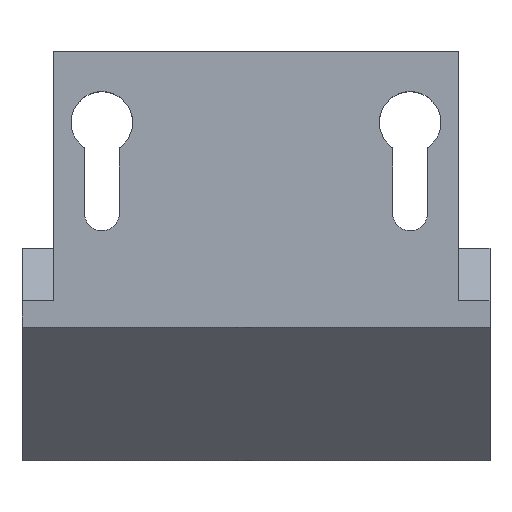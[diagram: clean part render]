
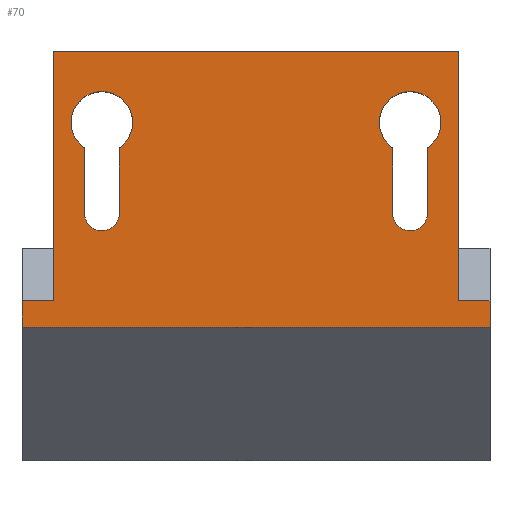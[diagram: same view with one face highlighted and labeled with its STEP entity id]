
A CAD part, top view. The second image highlights one B-rep face of the part: STEP entity #70.
In plain terms, the highlighted planar face has unit normal (0, 0, 1).
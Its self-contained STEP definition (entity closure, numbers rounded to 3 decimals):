
#70 = ADVANCED_FACE( '', ( #142, #143, #144 ), #145, .F. );
#142 = FACE_BOUND( '', #213, .T. );
#143 = FACE_BOUND( '', #214, .T. );
#144 = FACE_OUTER_BOUND( '', #215, .T. );
#145 = PLANE( '', #216 );
#213 = EDGE_LOOP( '', ( #355, #356, #357, #358 ) );
#214 = EDGE_LOOP( '', ( #359, #360, #361, #362 ) );
#215 = EDGE_LOOP( '', ( #363, #364, #365, #366, #367, #368, #369, #370 ) );
#216 = AXIS2_PLACEMENT_3D( '', #371, #372, #373 );
#355 = ORIENTED_EDGE( '', *, *, #458, .F. );
#356 = ORIENTED_EDGE( '', *, *, #469, .F. );
#357 = ORIENTED_EDGE( '', *, *, #466, .F. );
#358 = ORIENTED_EDGE( '', *, *, #485, .F. );
#359 = ORIENTED_EDGE( '', *, *, #451, .F. );
#360 = ORIENTED_EDGE( '', *, *, #480, .F. );
#361 = ORIENTED_EDGE( '', *, *, #486, .F. );
#362 = ORIENTED_EDGE( '', *, *, #454, .F. );
#363 = ORIENTED_EDGE( '', *, *, #474, .F. );
#364 = ORIENTED_EDGE( '', *, *, #487, .F. );
#365 = ORIENTED_EDGE( '', *, *, #426, .T. );
#366 = ORIENTED_EDGE( '', *, *, #488, .F. );
#367 = ORIENTED_EDGE( '', *, *, #489, .T. );
#368 = ORIENTED_EDGE( '', *, *, #462, .T. );
#369 = ORIENTED_EDGE( '', *, *, #476, .T. );
#370 = ORIENTED_EDGE( '', *, *, #483, .T. );
#371 = CARTESIAN_POINT( '', ( 43.95, 8.8, 0. ) );
#372 = DIRECTION( '', ( 0., 0., -1. ) );
#373 = DIRECTION( '', ( -1., 0., 0. ) );
#426 = EDGE_CURVE( '', #502, #499, #503, .T. );
#451 = EDGE_CURVE( '', #544, #546, #547, .T. );
#454 = EDGE_CURVE( '', #546, #550, #551, .T. );
#458 = EDGE_CURVE( '', #554, #556, #557, .T. );
#462 = EDGE_CURVE( '', #562, #560, #563, .T. );
#466 = EDGE_CURVE( '', #566, #568, #569, .T. );
#469 = EDGE_CURVE( '', #568, #554, #572, .T. );
#474 = EDGE_CURVE( '', #579, #574, #581, .T. );
#476 = EDGE_CURVE( '', #560, #583, #584, .T. );
#480 = EDGE_CURVE( '', #587, #544, #589, .T. );
#483 = EDGE_CURVE( '', #583, #574, #592, .T. );
#485 = EDGE_CURVE( '', #556, #566, #594, .T. );
#486 = EDGE_CURVE( '', #550, #587, #595, .T. );
#487 = EDGE_CURVE( '', #502, #579, #596, .T. );
#488 = EDGE_CURVE( '', #597, #499, #598, .T. );
#489 = EDGE_CURVE( '', #597, #562, #599, .T. );
#499 = VERTEX_POINT( '', #609 );
#502 = VERTEX_POINT( '', #613 );
#503 = LINE( '', #614, #615 );
#544 = VERTEX_POINT( '', #672 );
#546 = VERTEX_POINT( '', #675 );
#547 = CIRCLE( '', #676, 3.8 );
#550 = VERTEX_POINT( '', #680 );
#551 = LINE( '', #681, #682 );
#554 = VERTEX_POINT( '', #686 );
#556 = VERTEX_POINT( '', #689 );
#557 = CIRCLE( '', #690, 3.8 );
#560 = VERTEX_POINT( '', #694 );
#562 = VERTEX_POINT( '', #697 );
#563 = LINE( '', #698, #699 );
#566 = VERTEX_POINT( '', #703 );
#568 = VERTEX_POINT( '', #706 );
#569 = CIRCLE( '', #707, 2.15 );
#572 = LINE( '', #711, #712 );
#574 = VERTEX_POINT( '', #714 );
#579 = VERTEX_POINT( '', #721 );
#581 = LINE( '', #724, #725 );
#583 = VERTEX_POINT( '', #727 );
#584 = LINE( '', #728, #729 );
#587 = VERTEX_POINT( '', #733 );
#589 = LINE( '', #736, #737 );
#592 = LINE( '', #741, #742 );
#594 = LINE( '', #744, #745 );
#595 = CIRCLE( '', #746, 2.15 );
#596 = LINE( '', #747, #748 );
#597 = VERTEX_POINT( '', #749 );
#598 = LINE( '', #750, #751 );
#599 = LINE( '', #752, #753 );
#609 = CARTESIAN_POINT( '', ( 43.95, -21.991, 0. ) );
#613 = CARTESIAN_POINT( '', ( 47.85, -21.991, 0. ) );
#614 = CARTESIAN_POINT( '', ( 47.85, -21.991, 0. ) );
#615 = VECTOR( '', #765, 1000. );
#672 = CARTESIAN_POINT( '', ( 2.15, -3.133, 0. ) );
#675 = CARTESIAN_POINT( '', ( -2.15, -3.133, 0. ) );
#676 = AXIS2_PLACEMENT_3D( '', #795, #796, #797 );
#680 = CARTESIAN_POINT( '', ( -2.15, -11.2, 0. ) );
#681 = CARTESIAN_POINT( '', ( -2.15, -3.133, 0. ) );
#682 = VECTOR( '', #799, 1000. );
#686 = CARTESIAN_POINT( '', ( 40.15, -3.133, 0. ) );
#689 = CARTESIAN_POINT( '', ( 35.85, -3.133, 0. ) );
#690 = AXIS2_PLACEMENT_3D( '', #802, #803, #804 );
#694 = CARTESIAN_POINT( '', ( -5.95, -21.991, 0. ) );
#697 = CARTESIAN_POINT( '', ( -5.95, 8.8, 0. ) );
#698 = CARTESIAN_POINT( '', ( -5.95, 8.8, 0. ) );
#699 = VECTOR( '', #807, 1000. );
#703 = CARTESIAN_POINT( '', ( 35.85, -11.2, 0. ) );
#706 = CARTESIAN_POINT( '', ( 40.15, -11.2, 0. ) );
#707 = AXIS2_PLACEMENT_3D( '', #810, #811, #812 );
#711 = CARTESIAN_POINT( '', ( 40.15, -11.2, 0. ) );
#712 = VECTOR( '', #814, 1000. );
#714 = CARTESIAN_POINT( '', ( -9.85, -25.23, 0. ) );
#721 = CARTESIAN_POINT( '', ( 47.85, -25.23, 0. ) );
#724 = CARTESIAN_POINT( '', ( 43.95, -25.23, 0. ) );
#725 = VECTOR( '', #818, 1000. );
#727 = CARTESIAN_POINT( '', ( -9.85, -21.991, 0. ) );
#728 = CARTESIAN_POINT( '', ( 47.85, -21.991, 0. ) );
#729 = VECTOR( '', #819, 1000. );
#733 = CARTESIAN_POINT( '', ( 2.15, -11.2, 0. ) );
#736 = CARTESIAN_POINT( '', ( 2.15, -11.2, 0. ) );
#737 = VECTOR( '', #822, 1000. );
#741 = CARTESIAN_POINT( '', ( -9.85, -21.991, 0. ) );
#742 = VECTOR( '', #824, 1000. );
#744 = CARTESIAN_POINT( '', ( 35.85, -3.133, 0. ) );
#745 = VECTOR( '', #825, 1000. );
#746 = AXIS2_PLACEMENT_3D( '', #826, #827, #828 );
#747 = CARTESIAN_POINT( '', ( 47.85, -21.991, 0. ) );
#748 = VECTOR( '', #829, 1000. );
#749 = CARTESIAN_POINT( '', ( 43.95, 8.8, 0. ) );
#750 = CARTESIAN_POINT( '', ( 43.95, 8.8, 0. ) );
#751 = VECTOR( '', #830, 1000. );
#752 = CARTESIAN_POINT( '', ( 43.95, 8.8, 0. ) );
#753 = VECTOR( '', #831, 1000. );
#765 = DIRECTION( '', ( -1., 0., 0. ) );
#795 = CARTESIAN_POINT( '', ( 0., 0., 0. ) );
#796 = DIRECTION( '', ( 0., 0., 1. ) );
#797 = DIRECTION( '', ( 1., 0., 0. ) );
#799 = DIRECTION( '', ( 0., -1., 0. ) );
#802 = CARTESIAN_POINT( '', ( 38., 0., 0. ) );
#803 = DIRECTION( '', ( 0., 0., 1. ) );
#804 = DIRECTION( '', ( 1., 0., 0. ) );
#807 = DIRECTION( '', ( 0., -1., 0. ) );
#810 = CARTESIAN_POINT( '', ( 38., -11.2, 0. ) );
#811 = DIRECTION( '', ( 0., 0., 1. ) );
#812 = DIRECTION( '', ( 1., 0., 0. ) );
#814 = DIRECTION( '', ( 0., 1., 0. ) );
#818 = DIRECTION( '', ( -1., 0., 0. ) );
#819 = DIRECTION( '', ( -1., 0., 0. ) );
#822 = DIRECTION( '', ( 0., 1., 0. ) );
#824 = DIRECTION( '', ( 0., -1., 0. ) );
#825 = DIRECTION( '', ( 0., -1., 0. ) );
#826 = CARTESIAN_POINT( '', ( 0., -11.2, 0. ) );
#827 = DIRECTION( '', ( 0., 0., 1. ) );
#828 = DIRECTION( '', ( 1., 0., 0. ) );
#829 = DIRECTION( '', ( 0., -1., 0. ) );
#830 = DIRECTION( '', ( 0., -1., 0. ) );
#831 = DIRECTION( '', ( -1., 0., 0. ) );
